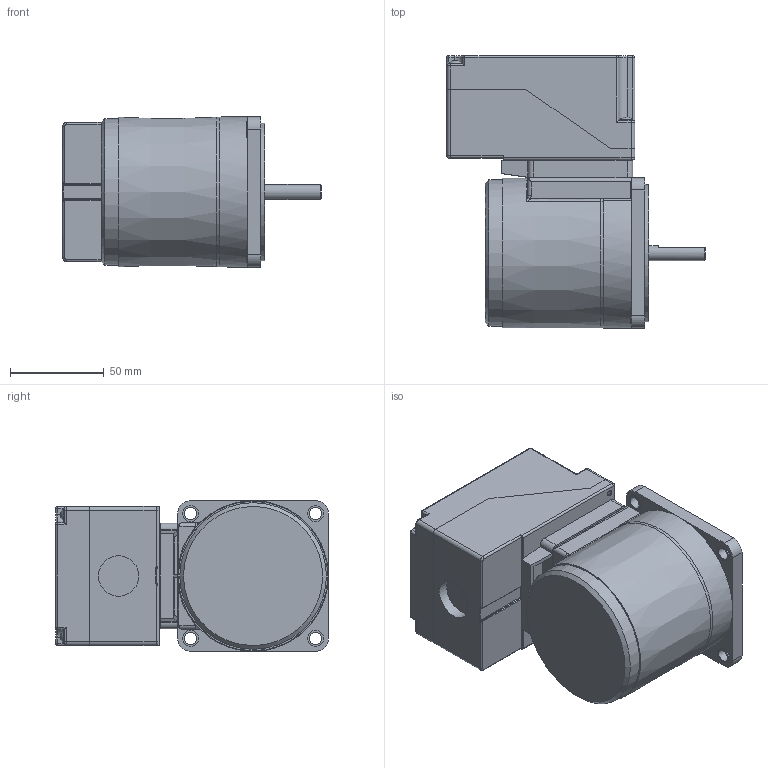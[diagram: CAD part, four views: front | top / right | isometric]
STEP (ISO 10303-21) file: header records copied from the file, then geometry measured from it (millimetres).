
FILE_DESCRIPTION(/* description */ (''),/* implementation_level */ '2;1');
FILE_NAME(/* name */ 'E:\도면작업\2016\0704) 미주향 SG 도면\3D MOTOR\TERMINAL BOX TYPE\INDUCTION TERMINAL BOX\SG8I25D_-T2.stp',/* time_stamp */ '2017-01-23T18:10:24+09:00',/* author */ ('jy-jung'),/* organization */ (''),/* preprocessor_version */ 'ST-DEVELOPER v15.6',/* originating_system */ 'Autodesk Inventor 2015',/* authorisation */ '');
FILE_SCHEMA (('AUTOMOTIVE_DESIGN { 1 0 10303 214 3 1 1 }'));
Length unit declared in the file: millimetre
Products named in the file (1): 부품4
Bounding box: 137.4 x 145 x 80 mm (x, y, z)
Volume: 568381.4 mm3; surface area: 118591.2 mm2
Topology: 1 solids, 5 shells, 846 faces, 2235 edges, 1426 vertices
Faces by surface type: plane 442, cylinder 294, bspline 48, torus 30, cone 20, sphere 12
Full cylindrical faces by diameter (mm): 2.5 x4, 3 x4, 3.2 x3, 3.4 x1, 4.2 x1, 4.5 x8, 5.5 x8, 6.5 x4, 6.9 x4, 8 x1, 8.5 x4, 21.5 x1, 34 x1, 73 x1, 78 x1
Entity records: 28066 total; most frequent: CARTESIAN_POINT 6545, DIRECTION 4288, ORIENTED_EDGE 4242, EDGE_CURVE 2121, AXIS2_PLACEMENT_3D 1513, VERTEX_POINT 1412, LINE 1262, VECTOR 1262
